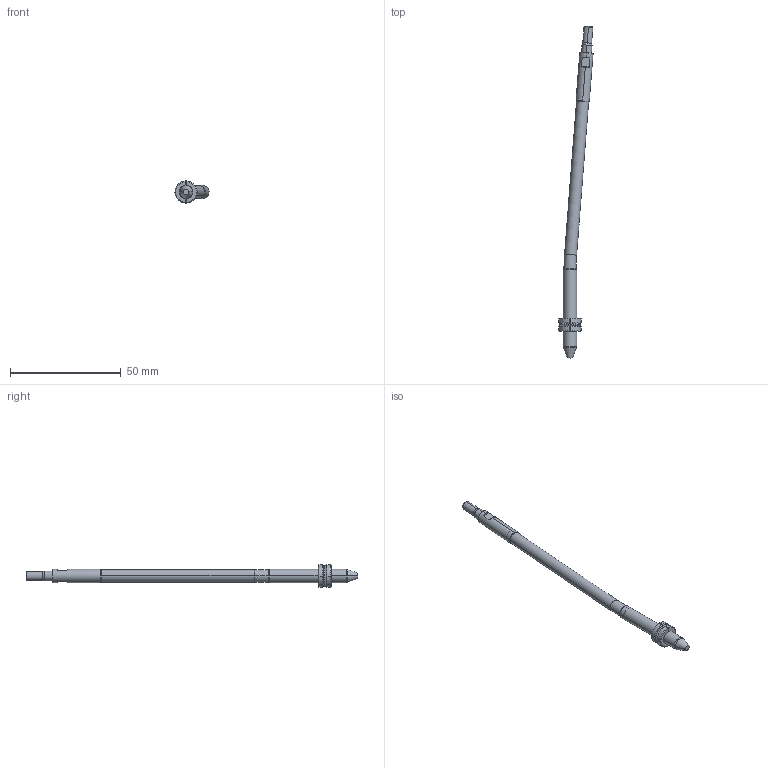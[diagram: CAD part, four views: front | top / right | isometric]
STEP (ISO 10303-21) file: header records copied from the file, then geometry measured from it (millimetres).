
FILE_DESCRIPTION (( 'STEP AP214' ), '1' );
FILE_NAME ('WP060060-EJE 4,5°.STEP', '2021-03-19T15:16:13', ( '' ), ( '' ), 'SwSTEP 2.0', 'SolidWorks 2019', '' );
FILE_SCHEMA (( 'AUTOMOTIVE_DESIGN' ));
Length unit declared in the file: millimetre
Products named in the file (6): WEB-008-JUNTA-JT7X1X9; WEB-007-9WP060060-F_WP060060-F-ON 4,5ø; WEB-006-9WP060030-6; WEB-002-9WP060030-2; WP060060-EJE 4,5°; WEB-001-9WP060030-1
Assembly tree (5 placements, depth 2):
  WP060060-EJE 4,5°
    WEB-001-9WP060030-1
    WEB-007-9WP060060-F_WP060060-F-ON 4,5ø
    WEB-002-9WP060030-2
    WEB-006-9WP060030-6
    WEB-008-JUNTA-JT7X1X9
Bounding box: 15.4 x 149.6 x 9.99 mm (x, y, z)
Volume: 3873.8 mm3; surface area: 3434.2 mm2
Topology: 6 solids, 6 shells, 112 faces, 262 edges, 164 vertices
Faces by surface type: cylinder 36, cone 28, plane 28, torus 20
Entity records: 3723 total; most frequent: CARTESIAN_POINT 714, DIRECTION 598, ORIENTED_EDGE 524, EDGE_CURVE 262, AXIS2_PLACEMENT_3D 256, VERTEX_POINT 164, CIRCLE 136, EDGE_LOOP 116
